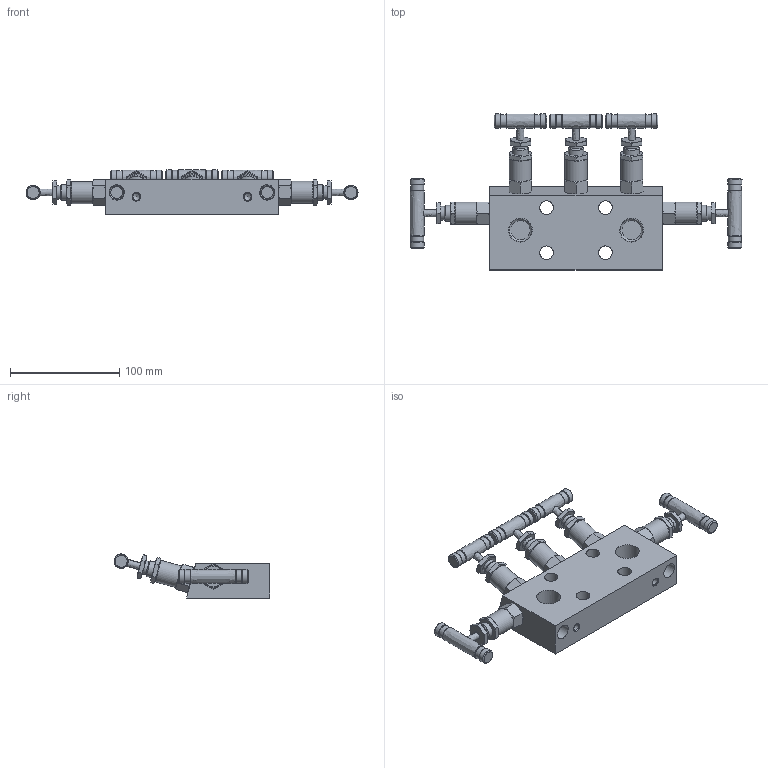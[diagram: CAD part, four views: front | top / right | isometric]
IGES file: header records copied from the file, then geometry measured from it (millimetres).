
Global section: file name: SM5VD-F-8N-S316; native system: Autodesk Inventor 2016; preprocessor: unknown; author: 이승민,,11,0; organization: 20161214.072929; date: 20161216.192330; units: millimetre
Bounding box: 304.52 x 143.06 x 40.51 mm (x, y, z)
Volume: 437080.3 mm3; surface area: 86524.6 mm2
Topology: 6 solids, 6 shells, 505 faces, 1236 edges, 796 vertices
Faces by surface type: bspline 505
